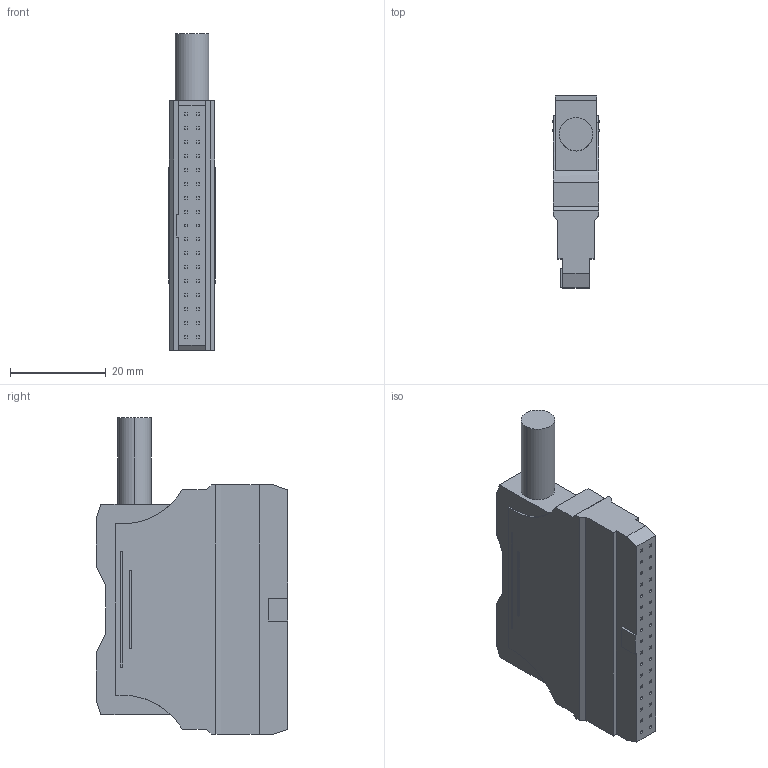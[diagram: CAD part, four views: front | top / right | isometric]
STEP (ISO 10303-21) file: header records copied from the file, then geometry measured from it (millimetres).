
FILE_DESCRIPTION (( 'STEP AP214' ), '1' );
FILE_NAME ('SX210-3-1000-X.STEP', '2023-07-12T08:03:45', ( '' ), ( '' ), 'SwSTEP 2.0', 'SolidWorks 2021', '' );
FILE_SCHEMA (( 'AUTOMOTIVE_DESIGN' ));
Length unit declared in the file: millimetre
Products named in the file (1): SX210-3-1000-X
Bounding box: 9.8 x 40 x 66 mm (x, y, z)
Volume: 16471.3 mm3; surface area: 6363.2 mm2
Topology: 1 solids, 1 shells, 364 faces, 875 edges, 558 vertices
Faces by surface type: plane 331, cylinder 25, torus 8
Entity records: 10387 total; most frequent: CARTESIAN_POINT 1798, ORIENTED_EDGE 1750, DIRECTION 1707, EDGE_CURVE 875, VECTOR 773, LINE 773, VERTEX_POINT 558, AXIS2_PLACEMENT_3D 467
